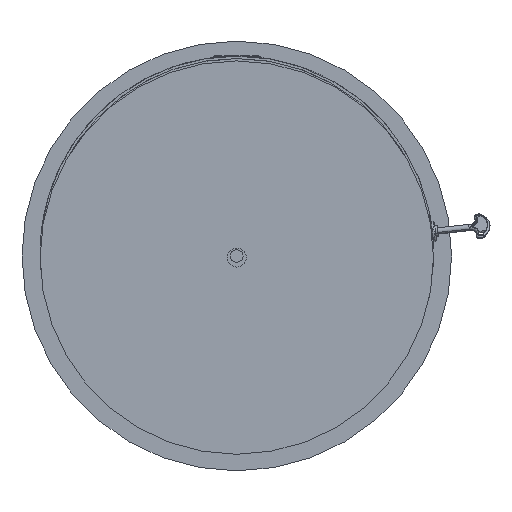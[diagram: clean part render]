
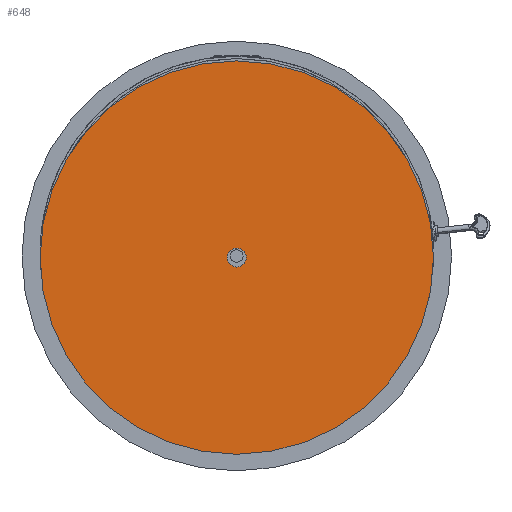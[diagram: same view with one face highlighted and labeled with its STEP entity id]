
A CAD part, front view. The second image highlights one B-rep face of the part: STEP entity #648.
In plain terms, the highlighted planar face has unit normal (0, -1, 0).
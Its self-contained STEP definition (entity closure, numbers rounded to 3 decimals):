
#239 = CARTESIAN_POINT ( 'NONE',  ( 0., 0., 0. ) ) ;
#636 = EDGE_LOOP ( 'NONE', ( #7672, #28404 ) ) ;
#648 = ADVANCED_FACE ( 'NONE', ( #31000, #21947 ), #34019, .T. ) ;
#768 = DIRECTION ( 'NONE',  ( 0., -1., 0. ) ) ;
#840 = CARTESIAN_POINT ( 'NONE',  ( 0., 0., 0. ) ) ;
#1649 = CIRCLE ( 'NONE', #38868, 12. ) ;
#1830 = EDGE_LOOP ( 'NONE', ( #17172, #18177 ) ) ;
#4150 = CIRCLE ( 'NONE', #5458, 250. ) ;
#5017 = CARTESIAN_POINT ( 'NONE',  ( 0., 0., 12. ) ) ;
#5458 = AXIS2_PLACEMENT_3D ( 'NONE', #36504, #39698, #15557 ) ;
#5898 = CIRCLE ( 'NONE', #24507, 250. ) ;
#7672 = ORIENTED_EDGE ( 'NONE', *, *, #38894, .F. ) ;
#7748 = EDGE_CURVE ( 'NONE', #39074, #26129, #34984, .T. ) ;
#7883 = CARTESIAN_POINT ( 'NONE',  ( 0., 0., -250. ) ) ;
#9312 = AXIS2_PLACEMENT_3D ( 'NONE', #840, #15712, #19123 ) ;
#10330 = CARTESIAN_POINT ( 'NONE',  ( 0., 0., -12. ) ) ;
#10398 = CARTESIAN_POINT ( 'NONE',  ( 0., 0., 0. ) ) ;
#13802 = VERTEX_POINT ( 'NONE', #33062 ) ;
#14178 = EDGE_CURVE ( 'NONE', #31381, #13802, #5898, .T. ) ;
#15557 = DIRECTION ( 'NONE',  ( 0., 0., 1. ) ) ;
#15692 = DIRECTION ( 'NONE',  ( 0., 1., 0. ) ) ;
#15712 = DIRECTION ( 'NONE',  ( 0., -1., 0. ) ) ;
#17172 = ORIENTED_EDGE ( 'NONE', *, *, #35932, .F. ) ;
#18177 = ORIENTED_EDGE ( 'NONE', *, *, #7748, .F. ) ;
#18901 = AXIS2_PLACEMENT_3D ( 'NONE', #10398, #38539, #22641 ) ;
#19123 = DIRECTION ( 'NONE',  ( 0., 0., -1. ) ) ;
#21947 = FACE_OUTER_BOUND ( 'NONE', #636, .T. ) ;
#22641 = DIRECTION ( 'NONE',  ( 0., 0., -1. ) ) ;
#24507 = AXIS2_PLACEMENT_3D ( 'NONE', #239, #15692, #27185 ) ;
#24706 = DIRECTION ( 'NONE',  ( 0., 0., -1. ) ) ;
#26129 = VERTEX_POINT ( 'NONE', #5017 ) ;
#27185 = DIRECTION ( 'NONE',  ( 0., 0., 1. ) ) ;
#27923 = CARTESIAN_POINT ( 'NONE',  ( 0., 0., 0. ) ) ;
#28404 = ORIENTED_EDGE ( 'NONE', *, *, #14178, .F. ) ;
#31000 = FACE_BOUND ( 'NONE', #1830, .T. ) ;
#31381 = VERTEX_POINT ( 'NONE', #7883 ) ;
#33062 = CARTESIAN_POINT ( 'NONE',  ( 0., 0., 250. ) ) ;
#34019 = PLANE ( 'NONE',  #9312 ) ;
#34984 = CIRCLE ( 'NONE', #18901, 12. ) ;
#35932 = EDGE_CURVE ( 'NONE', #26129, #39074, #1649, .T. ) ;
#36504 = CARTESIAN_POINT ( 'NONE',  ( 0., 0., 0. ) ) ;
#38539 = DIRECTION ( 'NONE',  ( 0., -1., 0. ) ) ;
#38868 = AXIS2_PLACEMENT_3D ( 'NONE', #27923, #768, #24706 ) ;
#38894 = EDGE_CURVE ( 'NONE', #13802, #31381, #4150, .T. ) ;
#39074 = VERTEX_POINT ( 'NONE', #10330 ) ;
#39698 = DIRECTION ( 'NONE',  ( 0., 1., 0. ) ) ;
